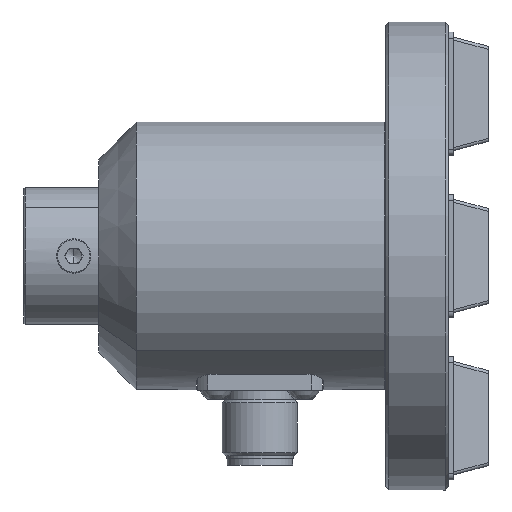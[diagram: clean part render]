
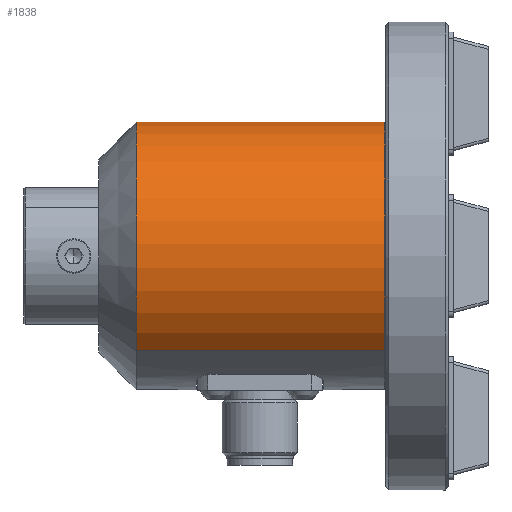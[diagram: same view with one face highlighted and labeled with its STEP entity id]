
A CAD part, front view. The second image highlights one B-rep face of the part: STEP entity #1838.
In plain terms, the highlighted cylindrical face has radius 21.5 mm (diameter 43 mm), a partial arc.
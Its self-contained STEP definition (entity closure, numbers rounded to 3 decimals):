
#914 = DIRECTION ( 'NONE',  ( -1., 0., 0. ) ) ;
#1049 = LINE ( 'NONE', #13079, #4148 ) ;
#1563 = CARTESIAN_POINT ( 'NONE',  ( -75.034, -15.203, -15.203 ) ) ;
#1838 = ADVANCED_FACE ( 'NONE', ( #4046 ), #4139, .T. ) ;
#2690 = AXIS2_PLACEMENT_3D ( 'NONE', #11971, #8798, #16582 ) ;
#2789 = EDGE_CURVE ( 'NONE', #3761, #4023, #13365, .T. ) ;
#3036 = CARTESIAN_POINT ( 'NONE',  ( -35.234, -15.203, -15.203 ) ) ;
#3761 = VERTEX_POINT ( 'NONE', #9569 ) ;
#4011 = AXIS2_PLACEMENT_3D ( 'NONE', #18942, #914, #8171 ) ;
#4023 = VERTEX_POINT ( 'NONE', #13838 ) ;
#4046 = FACE_OUTER_BOUND ( 'NONE', #11658, .T. ) ;
#4139 = CYLINDRICAL_SURFACE ( 'NONE', #16845, 21.5 ) ;
#4148 = VECTOR ( 'NONE', #13281, 1000. ) ;
#4538 = DIRECTION ( 'NONE',  ( 1., 0., 0. ) ) ;
#4682 = EDGE_CURVE ( 'NONE', #5440, #4023, #7437, .T. ) ;
#5440 = VERTEX_POINT ( 'NONE', #3036 ) ;
#5502 = EDGE_CURVE ( 'NONE', #3761, #13108, #7011, .T. ) ;
#5748 = VECTOR ( 'NONE', #13477, 1000. ) ;
#6904 = ORIENTED_EDGE ( 'NONE', *, *, #5502, .T. ) ;
#7011 = CIRCLE ( 'NONE', #2690, 21.5 ) ;
#7373 = CARTESIAN_POINT ( 'NONE',  ( -10.92, 15.203, 15.203 ) ) ;
#7437 = CIRCLE ( 'NONE', #4011, 21.5 ) ;
#8171 = DIRECTION ( 'NONE',  ( 0., 0.707, 0.707 ) ) ;
#8798 = DIRECTION ( 'NONE',  ( 1., 0., 0. ) ) ;
#8856 = DIRECTION ( 'NONE',  ( 0., 0.707, 0.707 ) ) ;
#9569 = CARTESIAN_POINT ( 'NONE',  ( -75.034, 15.203, 15.203 ) ) ;
#10112 = EDGE_CURVE ( 'NONE', #13108, #5440, #1049, .T. ) ;
#10478 = CARTESIAN_POINT ( 'NONE',  ( -10.92, 0., 0. ) ) ;
#11658 = EDGE_LOOP ( 'NONE', ( #6904, #13908, #13367, #16361 ) ) ;
#11971 = CARTESIAN_POINT ( 'NONE',  ( -75.034, 0., 0. ) ) ;
#13079 = CARTESIAN_POINT ( 'NONE',  ( -10.92, -15.203, -15.203 ) ) ;
#13108 = VERTEX_POINT ( 'NONE', #1563 ) ;
#13281 = DIRECTION ( 'NONE',  ( 1., 0., 0. ) ) ;
#13365 = LINE ( 'NONE', #7373, #5748 ) ;
#13367 = ORIENTED_EDGE ( 'NONE', *, *, #4682, .T. ) ;
#13477 = DIRECTION ( 'NONE',  ( 1., 0., 0. ) ) ;
#13838 = CARTESIAN_POINT ( 'NONE',  ( -35.234, 15.203, 15.203 ) ) ;
#13908 = ORIENTED_EDGE ( 'NONE', *, *, #10112, .T. ) ;
#16361 = ORIENTED_EDGE ( 'NONE', *, *, #2789, .F. ) ;
#16582 = DIRECTION ( 'NONE',  ( 0., -0.707, -0.707 ) ) ;
#16845 = AXIS2_PLACEMENT_3D ( 'NONE', #10478, #4538, #8856 ) ;
#18942 = CARTESIAN_POINT ( 'NONE',  ( -35.234, 0., 0. ) ) ;
